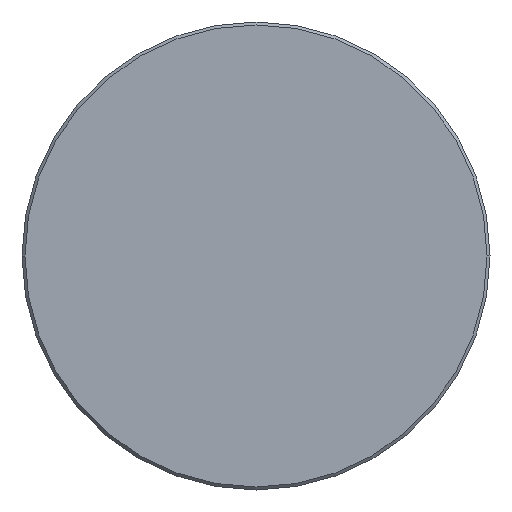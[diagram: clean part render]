
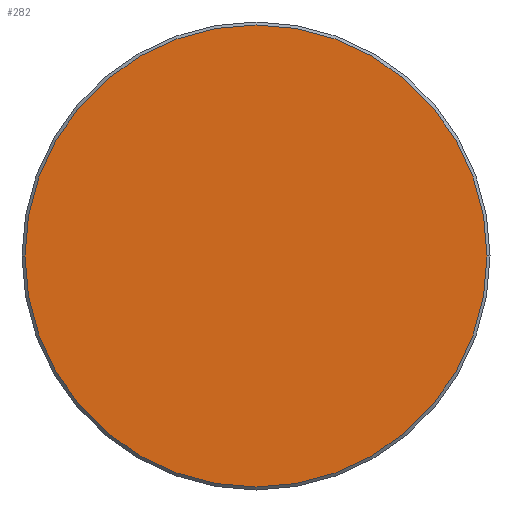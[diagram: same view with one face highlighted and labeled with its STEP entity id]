
A CAD part, left-side view. The second image highlights one B-rep face of the part: STEP entity #282.
In plain terms, the highlighted planar face has unit normal (-1, 0, 0).
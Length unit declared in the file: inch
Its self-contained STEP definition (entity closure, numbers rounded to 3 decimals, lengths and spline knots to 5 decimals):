
#4 = PLANE ( 'NONE',  #334 ) ;
#19 = ORIENTED_EDGE ( 'NONE', *, *, #102, .T. ) ;
#28 = VERTEX_POINT ( 'NONE', #325 ) ;
#32 = DIRECTION ( 'NONE',  ( 0., -1., 0. ) ) ;
#102 = EDGE_CURVE ( 'NONE', #28, #171, #332, .T. ) ;
#132 = DIRECTION ( 'NONE',  ( -1., 0., 0. ) ) ;
#168 = DIRECTION ( 'NONE',  ( 0., -1., 0. ) ) ;
#171 = VERTEX_POINT ( 'NONE', #285 ) ;
#185 = CARTESIAN_POINT ( 'NONE',  ( 0., 0., 0. ) ) ;
#216 = EDGE_LOOP ( 'NONE', ( #19, #369 ) ) ;
#232 = CARTESIAN_POINT ( 'NONE',  ( 0., 0., 0. ) ) ;
#263 = DIRECTION ( 'NONE',  ( -1., 0., 0. ) ) ;
#272 = CIRCLE ( 'NONE', #349, 0.3085 ) ;
#282 = ADVANCED_FACE ( 'NONE', ( #377 ), #4, .T. ) ;
#285 = CARTESIAN_POINT ( 'NONE',  ( 0., -0.3085, 0. ) ) ;
#325 = CARTESIAN_POINT ( 'NONE',  ( 0., 0.3085, 0. ) ) ;
#331 = EDGE_CURVE ( 'NONE', #171, #28, #272, .T. ) ;
#332 = CIRCLE ( 'NONE', #348, 0.3085 ) ;
#334 = AXIS2_PLACEMENT_3D ( 'NONE', #343, #263, #168 ) ;
#343 = CARTESIAN_POINT ( 'NONE',  ( 0., 0., 0. ) ) ;
#345 = DIRECTION ( 'NONE',  ( -1., 0., 0. ) ) ;
#348 = AXIS2_PLACEMENT_3D ( 'NONE', #185, #132, #367 ) ;
#349 = AXIS2_PLACEMENT_3D ( 'NONE', #232, #345, #32 ) ;
#367 = DIRECTION ( 'NONE',  ( 0., -1., 0. ) ) ;
#369 = ORIENTED_EDGE ( 'NONE', *, *, #331, .T. ) ;
#377 = FACE_OUTER_BOUND ( 'NONE', #216, .T. ) ;
